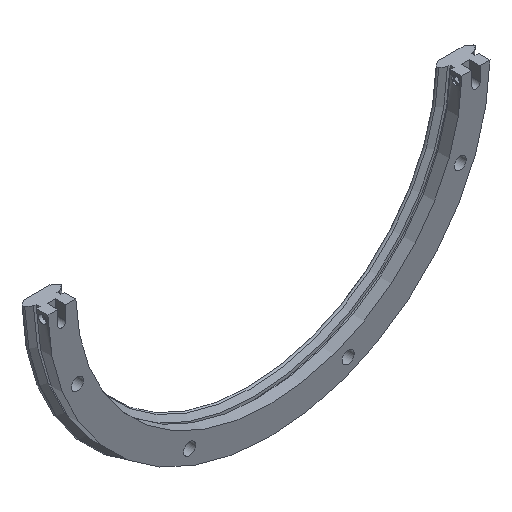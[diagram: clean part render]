
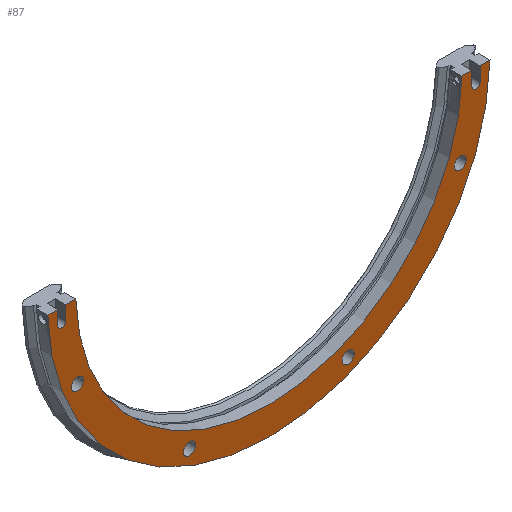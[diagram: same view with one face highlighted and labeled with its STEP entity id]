
A CAD part, isometric view. The second image highlights one B-rep face of the part: STEP entity #87.
In plain terms, the highlighted planar face has unit normal (0, -1, 0).
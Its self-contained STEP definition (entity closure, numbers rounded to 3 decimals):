
#87 = ADVANCED_FACE( '', ( #181, #182, #183, #184, #185 ), #186, .T. );
#181 = FACE_BOUND( '', #362, .T. );
#182 = FACE_BOUND( '', #363, .T. );
#183 = FACE_BOUND( '', #364, .T. );
#184 = FACE_BOUND( '', #365, .T. );
#185 = FACE_OUTER_BOUND( '', #366, .T. );
#186 = PLANE( '', #367 );
#362 = EDGE_LOOP( '', ( #598 ) );
#363 = EDGE_LOOP( '', ( #599 ) );
#364 = EDGE_LOOP( '', ( #600 ) );
#365 = EDGE_LOOP( '', ( #601 ) );
#366 = EDGE_LOOP( '', ( #602, #603, #604, #605, #606, #607, #608, #609, #610, #611, #612, #613 ) );
#367 = AXIS2_PLACEMENT_3D( '', #614, #615, #616 );
#598 = ORIENTED_EDGE( '', *, *, #1112, .F. );
#599 = ORIENTED_EDGE( '', *, *, #1113, .F. );
#600 = ORIENTED_EDGE( '', *, *, #1104, .F. );
#601 = ORIENTED_EDGE( '', *, *, #1108, .F. );
#602 = ORIENTED_EDGE( '', *, *, #1114, .T. );
#603 = ORIENTED_EDGE( '', *, *, #1115, .T. );
#604 = ORIENTED_EDGE( '', *, *, #1071, .T. );
#605 = ORIENTED_EDGE( '', *, *, #1116, .F. );
#606 = ORIENTED_EDGE( '', *, *, #1117, .T. );
#607 = ORIENTED_EDGE( '', *, *, #1100, .T. );
#608 = ORIENTED_EDGE( '', *, *, #1097, .T. );
#609 = ORIENTED_EDGE( '', *, *, #1102, .T. );
#610 = ORIENTED_EDGE( '', *, *, #1118, .T. );
#611 = ORIENTED_EDGE( '', *, *, #1119, .T. );
#612 = ORIENTED_EDGE( '', *, *, #1075, .T. );
#613 = ORIENTED_EDGE( '', *, *, #1120, .T. );
#614 = CARTESIAN_POINT( '', ( -59.2, 0., 0. ) );
#615 = DIRECTION( '', ( 0., -1., 0. ) );
#616 = DIRECTION( '', ( 0., 0., -1. ) );
#1071 = EDGE_CURVE( '', #1240, #1241, #1242, .T. );
#1075 = EDGE_CURVE( '', #1249, #1247, #1250, .T. );
#1097 = EDGE_CURVE( '', #1292, #1293, #1294, .T. );
#1100 = EDGE_CURVE( '', #1297, #1292, #1298, .T. );
#1102 = EDGE_CURVE( '', #1293, #1300, #1301, .T. );
#1104 = EDGE_CURVE( '', #1303, #1303, #1304, .T. );
#1108 = EDGE_CURVE( '', #1311, #1311, #1312, .T. );
#1112 = EDGE_CURVE( '', #1319, #1319, #1320, .T. );
#1113 = EDGE_CURVE( '', #1321, #1321, #1322, .T. );
#1114 = EDGE_CURVE( '', #1323, #1324, #1325, .T. );
#1115 = EDGE_CURVE( '', #1324, #1240, #1326, .T. );
#1116 = EDGE_CURVE( '', #1327, #1241, #1328, .T. );
#1117 = EDGE_CURVE( '', #1327, #1297, #1329, .T. );
#1118 = EDGE_CURVE( '', #1300, #1330, #1331, .T. );
#1119 = EDGE_CURVE( '', #1330, #1249, #1332, .T. );
#1120 = EDGE_CURVE( '', #1247, #1323, #1333, .T. );
#1240 = VERTEX_POINT( '', #1528 );
#1241 = VERTEX_POINT( '', #1529 );
#1242 = LINE( '', #1530, #1531 );
#1247 = VERTEX_POINT( '', #1538 );
#1249 = VERTEX_POINT( '', #1541 );
#1250 = LINE( '', #1542, #1543 );
#1292 = VERTEX_POINT( '', #1662 );
#1293 = VERTEX_POINT( '', #1663 );
#1294 = CIRCLE( '', #1664, 1.25 );
#1297 = VERTEX_POINT( '', #1669 );
#1298 = LINE( '', #1670, #1671 );
#1300 = VERTEX_POINT( '', #1674 );
#1301 = LINE( '', #1675, #1676 );
#1303 = VERTEX_POINT( '', #1679 );
#1304 = CIRCLE( '', #1680, 1.85 );
#1311 = VERTEX_POINT( '', #1687 );
#1312 = CIRCLE( '', #1688, 1.85 );
#1319 = VERTEX_POINT( '', #1695 );
#1320 = CIRCLE( '', #1696, 1.85 );
#1321 = VERTEX_POINT( '', #1697 );
#1322 = CIRCLE( '', #1698, 1.85 );
#1323 = VERTEX_POINT( '', #1699 );
#1324 = VERTEX_POINT( '', #1700 );
#1325 = CIRCLE( '', #1701, 1.25 );
#1326 = LINE( '', #1702, #1703 );
#1327 = VERTEX_POINT( '', #1704 );
#1328 = CIRCLE( '', #1705, 59.2 );
#1329 = LINE( '', #1706, #1707 );
#1330 = VERTEX_POINT( '', #1708 );
#1331 = LINE( '', #1709, #1710 );
#1332 = CIRCLE( '', #1711, 67.8 );
#1333 = LINE( '', #1712, #1713 );
#1528 = CARTESIAN_POINT( '', ( 62.25, 0., -1.5 ) );
#1529 = CARTESIAN_POINT( '', ( 59.181, 0., -1.5 ) );
#1530 = CARTESIAN_POINT( '', ( 69.685, 0., -1.5 ) );
#1531 = VECTOR( '', #2134, 1000. );
#1538 = CARTESIAN_POINT( '', ( 64.75, 0., -1.5 ) );
#1541 = CARTESIAN_POINT( '', ( 67.783, 0., -1.5 ) );
#1542 = CARTESIAN_POINT( '', ( 69.685, 0., -1.5 ) );
#1543 = VECTOR( '', #2138, 1000. );
#1662 = CARTESIAN_POINT( '', ( -62.25, 0., -5.75 ) );
#1663 = CARTESIAN_POINT( '', ( -64.75, 0., -5.75 ) );
#1664 = AXIS2_PLACEMENT_3D( '', #2157, #2158, #2159 );
#1669 = CARTESIAN_POINT( '', ( -62.25, 0., -1.5 ) );
#1670 = CARTESIAN_POINT( '', ( -62.25, 0., 0. ) );
#1671 = VECTOR( '', #2162, 1000. );
#1674 = CARTESIAN_POINT( '', ( -64.75, 0., -1.5 ) );
#1675 = CARTESIAN_POINT( '', ( -64.75, 0., -5.75 ) );
#1676 = VECTOR( '', #2164, 1000. );
#1679 = CARTESIAN_POINT( '', ( -58.666, 0., -26.15 ) );
#1680 = AXIS2_PLACEMENT_3D( '', #2166, #2167, #2168 );
#1687 = CARTESIAN_POINT( '', ( -24.3, 0., -60.516 ) );
#1688 = AXIS2_PLACEMENT_3D( '', #2178, #2179, #2180 );
#1695 = CARTESIAN_POINT( '', ( 58.666, 0., -26.15 ) );
#1696 = AXIS2_PLACEMENT_3D( '', #2190, #2191, #2192 );
#1697 = CARTESIAN_POINT( '', ( 24.3, 0., -60.516 ) );
#1698 = AXIS2_PLACEMENT_3D( '', #2193, #2194, #2195 );
#1699 = CARTESIAN_POINT( '', ( 64.75, 0., -5.75 ) );
#1700 = CARTESIAN_POINT( '', ( 62.25, 0., -5.75 ) );
#1701 = AXIS2_PLACEMENT_3D( '', #2196, #2197, #2198 );
#1702 = CARTESIAN_POINT( '', ( 62.25, 0., -5.75 ) );
#1703 = VECTOR( '', #2199, 1000. );
#1704 = CARTESIAN_POINT( '', ( -59.181, 0., -1.5 ) );
#1705 = AXIS2_PLACEMENT_3D( '', #2200, #2201, #2202 );
#1706 = CARTESIAN_POINT( '', ( 69.685, 0., -1.5 ) );
#1707 = VECTOR( '', #2203, 1000. );
#1708 = CARTESIAN_POINT( '', ( -67.783, 0., -1.5 ) );
#1709 = CARTESIAN_POINT( '', ( 69.685, 0., -1.5 ) );
#1710 = VECTOR( '', #2204, 1000. );
#1711 = AXIS2_PLACEMENT_3D( '', #2205, #2206, #2207 );
#1712 = CARTESIAN_POINT( '', ( 64.75, 0., 0. ) );
#1713 = VECTOR( '', #2208, 1000. );
#2134 = DIRECTION( '', ( -1., 0., 0. ) );
#2138 = DIRECTION( '', ( -1., 0., 0. ) );
#2157 = CARTESIAN_POINT( '', ( -63.5, 0., -5.75 ) );
#2158 = DIRECTION( '', ( 0., 1., 0. ) );
#2159 = DIRECTION( '', ( 1., 0., 0. ) );
#2162 = DIRECTION( '', ( 0., 0., -1. ) );
#2164 = DIRECTION( '', ( 0., 0., 1. ) );
#2166 = CARTESIAN_POINT( '', ( -58.666, 0., -24.3 ) );
#2167 = DIRECTION( '', ( 0., -1., 0. ) );
#2168 = DIRECTION( '', ( 0., 0., -1. ) );
#2178 = CARTESIAN_POINT( '', ( -24.3, 0., -58.666 ) );
#2179 = DIRECTION( '', ( 0., -1., 0. ) );
#2180 = DIRECTION( '', ( 0., 0., -1. ) );
#2190 = CARTESIAN_POINT( '', ( 58.666, 0., -24.3 ) );
#2191 = DIRECTION( '', ( 0., -1., 0. ) );
#2192 = DIRECTION( '', ( 0., 0., -1. ) );
#2193 = CARTESIAN_POINT( '', ( 24.3, 0., -58.666 ) );
#2194 = DIRECTION( '', ( 0., -1., 0. ) );
#2195 = DIRECTION( '', ( 0., 0., -1. ) );
#2196 = CARTESIAN_POINT( '', ( 63.5, 0., -5.75 ) );
#2197 = DIRECTION( '', ( 0., 1., 0. ) );
#2198 = DIRECTION( '', ( 1., 0., 0. ) );
#2199 = DIRECTION( '', ( 0., 0., 1. ) );
#2200 = CARTESIAN_POINT( '', ( 0., 0., 0. ) );
#2201 = DIRECTION( '', ( 0., -1., 0. ) );
#2202 = DIRECTION( '', ( 0., 0., -1. ) );
#2203 = DIRECTION( '', ( -1., 0., 0. ) );
#2204 = DIRECTION( '', ( -1., 0., 0. ) );
#2205 = CARTESIAN_POINT( '', ( 0., 0., 0. ) );
#2206 = DIRECTION( '', ( 0., -1., 0. ) );
#2207 = DIRECTION( '', ( 0., 0., -1. ) );
#2208 = DIRECTION( '', ( 0., 0., -1. ) );
